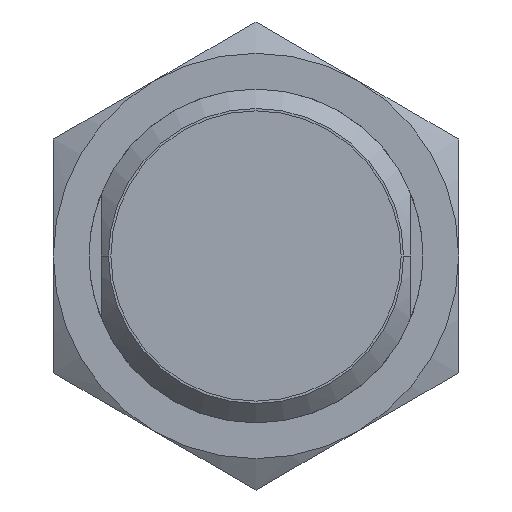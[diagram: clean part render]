
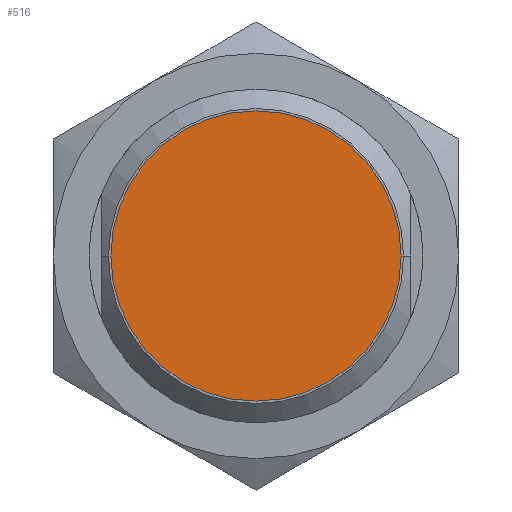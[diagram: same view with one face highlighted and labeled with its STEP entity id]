
A CAD part, left-side view. The second image highlights one B-rep face of the part: STEP entity #516.
In plain terms, the highlighted planar face has unit normal (-1, 0, 0).
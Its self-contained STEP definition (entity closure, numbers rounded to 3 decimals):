
#196=CARTESIAN_POINT('',(-69.,0.,0.));
#197=DIRECTION('',(1.,0.,0.));
#198=DIRECTION('',(0.,1.,0.));
#199=AXIS2_PLACEMENT_3D('',#196,#197,#198);
#201=CARTESIAN_POINT('',(-69.,0.,0.));
#202=DIRECTION('',(-1.,0.,0.));
#203=DIRECTION('',(0.,1.,0.));
#204=AXIS2_PLACEMENT_3D('',#201,#202,#203);
#223=CARTESIAN_POINT('',(-69.,6.088,0.));
#225=VERTEX_POINT('',#223);
#231=CARTESIAN_POINT('',(-69.,-6.088,0.));
#233=VERTEX_POINT('',#231);
#507=CARTESIAN_POINT('',(-69.,0.,0.));
#508=DIRECTION('',(-1.,0.,0.));
#509=DIRECTION('',(0.,1.,0.));
#510=AXIS2_PLACEMENT_3D('',#507,#508,#509);
#511=PLANE('159',#510);
#512=ORIENTED_EDGE('509',*,*,#502,.T.);
#513=ORIENTED_EDGE('491',*,*,#486,.F.);
#514=EDGE_LOOP('159',(#512,#513));
#515=FACE_OUTER_BOUND('159',#514,.F.);
#516=ADVANCED_FACE('159',(#515),#511,.T.);
#200=CIRCLE('509',#199,6.088);
#205=CIRCLE('491',#204,6.088);
#486=EDGE_CURVE('491',#225,#233,#205,.T.);
#502=EDGE_CURVE('509',#225,#233,#200,.T.);
